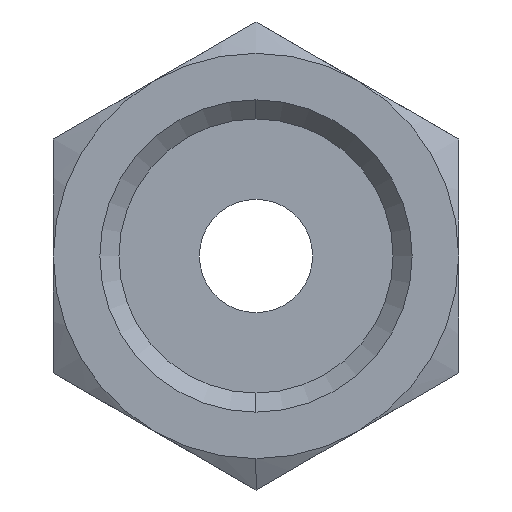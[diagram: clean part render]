
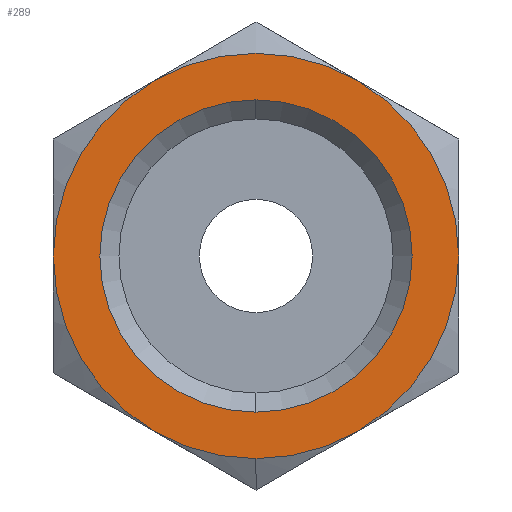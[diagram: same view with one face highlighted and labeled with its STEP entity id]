
A CAD part, front view. The second image highlights one B-rep face of the part: STEP entity #289.
In plain terms, the highlighted planar face has unit normal (0, -1, 0).
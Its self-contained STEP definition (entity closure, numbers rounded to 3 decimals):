
#54 = DIRECTION ( 'NONE',  ( 0., -1., 0. ) ) ;
#150 = VERTEX_POINT ( 'NONE', #1997 ) ;
#152 = ORIENTED_EDGE ( 'NONE', *, *, #1999, .T. ) ;
#156 = FACE_BOUND ( 'NONE', #594, .T. ) ;
#161 = CIRCLE ( 'NONE', #1428, 8.5 ) ;
#180 = CARTESIAN_POINT ( 'NONE',  ( 0., 0., 0. ) ) ;
#189 = CARTESIAN_POINT ( 'NONE',  ( 0., 0., 0. ) ) ;
#192 = DIRECTION ( 'NONE',  ( 0., 0., -1. ) ) ;
#222 = EDGE_CURVE ( 'NONE', #150, #2000, #1866, .T. ) ;
#227 = ORIENTED_EDGE ( 'NONE', *, *, #1320, .T. ) ;
#289 = ADVANCED_FACE ( 'NONE', ( #156, #1001 ), #1289, .T. ) ;
#307 = CIRCLE ( 'NONE', #710, 8.5 ) ;
#385 = CIRCLE ( 'NONE', #634, 8.5 ) ;
#403 = ORIENTED_EDGE ( 'NONE', *, *, #1513, .T. ) ;
#411 = VERTEX_POINT ( 'NONE', #1096 ) ;
#419 = EDGE_CURVE ( 'NONE', #411, #1335, #1264, .T. ) ;
#420 = VERTEX_POINT ( 'NONE', #1734 ) ;
#433 = EDGE_CURVE ( 'NONE', #725, #746, #307, .T. ) ;
#465 = AXIS2_PLACEMENT_3D ( 'NONE', #538, #54, #1942 ) ;
#482 = DIRECTION ( 'NONE',  ( 0., -1., 0. ) ) ;
#538 = CARTESIAN_POINT ( 'NONE',  ( 5.75, 0., 0. ) ) ;
#594 = EDGE_LOOP ( 'NONE', ( #763, #1475 ) ) ;
#634 = AXIS2_PLACEMENT_3D ( 'NONE', #1531, #785, #1825 ) ;
#646 = DIRECTION ( 'NONE',  ( 0., 0., -1. ) ) ;
#669 = CARTESIAN_POINT ( 'NONE',  ( 0., 0., 0. ) ) ;
#677 = DIRECTION ( 'NONE',  ( 0., -1., 0. ) ) ;
#710 = AXIS2_PLACEMENT_3D ( 'NONE', #1748, #677, #646 ) ;
#725 = VERTEX_POINT ( 'NONE', #1101 ) ;
#727 = EDGE_CURVE ( 'NONE', #746, #420, #1235, .T. ) ;
#737 = CARTESIAN_POINT ( 'NONE',  ( 4.25, 0., -7.361 ) ) ;
#746 = VERTEX_POINT ( 'NONE', #1745 ) ;
#747 = CARTESIAN_POINT ( 'NONE',  ( 0., 0., 0. ) ) ;
#763 = ORIENTED_EDGE ( 'NONE', *, *, #419, .T. ) ;
#785 = DIRECTION ( 'NONE',  ( 0., -1., 0. ) ) ;
#817 = AXIS2_PLACEMENT_3D ( 'NONE', #858, #1952, #1788 ) ;
#823 = AXIS2_PLACEMENT_3D ( 'NONE', #669, #482, #192 ) ;
#824 = DIRECTION ( 'NONE',  ( 0., 0., -1. ) ) ;
#858 = CARTESIAN_POINT ( 'NONE',  ( 0., 0., 0. ) ) ;
#881 = VERTEX_POINT ( 'NONE', #1054 ) ;
#921 = CARTESIAN_POINT ( 'NONE',  ( 4.25, 0., 7.361 ) ) ;
#934 = AXIS2_PLACEMENT_3D ( 'NONE', #189, #1713, #1065 ) ;
#948 = DIRECTION ( 'NONE',  ( 0., -1., 0. ) ) ;
#983 = ORIENTED_EDGE ( 'NONE', *, *, #222, .T. ) ;
#997 = EDGE_CURVE ( 'NONE', #1335, #411, #1408, .T. ) ;
#1001 = FACE_OUTER_BOUND ( 'NONE', #1794, .T. ) ;
#1023 = ORIENTED_EDGE ( 'NONE', *, *, #433, .T. ) ;
#1054 = CARTESIAN_POINT ( 'NONE',  ( 0., 0., -8.5 ) ) ;
#1063 = ORIENTED_EDGE ( 'NONE', *, *, #727, .T. ) ;
#1065 = DIRECTION ( 'NONE',  ( 0., 0., -1. ) ) ;
#1085 = CARTESIAN_POINT ( 'NONE',  ( 0., 0., 0. ) ) ;
#1096 = CARTESIAN_POINT ( 'NONE',  ( 0., 0., -6.55 ) ) ;
#1101 = CARTESIAN_POINT ( 'NONE',  ( -4.25, 0., 7.361 ) ) ;
#1223 = CIRCLE ( 'NONE', #1528, 8.5 ) ;
#1235 = CIRCLE ( 'NONE', #1806, 8.5 ) ;
#1264 = CIRCLE ( 'NONE', #934, 6.55 ) ;
#1289 = PLANE ( 'NONE',  #465 ) ;
#1320 = EDGE_CURVE ( 'NONE', #1674, #150, #1679, .T. ) ;
#1335 = VERTEX_POINT ( 'NONE', #1895 ) ;
#1361 = DIRECTION ( 'NONE',  ( 0., -1., 0. ) ) ;
#1387 = DIRECTION ( 'NONE',  ( 0., -1., 0. ) ) ;
#1408 = CIRCLE ( 'NONE', #817, 6.55 ) ;
#1428 = AXIS2_PLACEMENT_3D ( 'NONE', #1543, #1387, #1520 ) ;
#1475 = ORIENTED_EDGE ( 'NONE', *, *, #997, .T. ) ;
#1513 = EDGE_CURVE ( 'NONE', #2000, #725, #161, .T. ) ;
#1520 = DIRECTION ( 'NONE',  ( 0., 0., -1. ) ) ;
#1528 = AXIS2_PLACEMENT_3D ( 'NONE', #747, #1361, #1971 ) ;
#1531 = CARTESIAN_POINT ( 'NONE',  ( 0., 0., 0. ) ) ;
#1543 = CARTESIAN_POINT ( 'NONE',  ( 0., 0., 0. ) ) ;
#1568 = DIRECTION ( 'NONE',  ( 0., -1., 0. ) ) ;
#1575 = EDGE_CURVE ( 'NONE', #420, #881, #385, .T. ) ;
#1662 = AXIS2_PLACEMENT_3D ( 'NONE', #180, #948, #824 ) ;
#1674 = VERTEX_POINT ( 'NONE', #737 ) ;
#1679 = CIRCLE ( 'NONE', #823, 8.5 ) ;
#1713 = DIRECTION ( 'NONE',  ( 0., 1., 0. ) ) ;
#1734 = CARTESIAN_POINT ( 'NONE',  ( -4.25, 0., -7.361 ) ) ;
#1745 = CARTESIAN_POINT ( 'NONE',  ( -8.5, 0., 0. ) ) ;
#1748 = CARTESIAN_POINT ( 'NONE',  ( 0., 0., 0. ) ) ;
#1788 = DIRECTION ( 'NONE',  ( 0., 0., -1. ) ) ;
#1794 = EDGE_LOOP ( 'NONE', ( #1897, #152, #227, #983, #403, #1023, #1063 ) ) ;
#1806 = AXIS2_PLACEMENT_3D ( 'NONE', #1085, #1568, #1855 ) ;
#1825 = DIRECTION ( 'NONE',  ( 0., 0., -1. ) ) ;
#1855 = DIRECTION ( 'NONE',  ( 0., 0., -1. ) ) ;
#1866 = CIRCLE ( 'NONE', #1662, 8.5 ) ;
#1895 = CARTESIAN_POINT ( 'NONE',  ( 0., 0., 6.55 ) ) ;
#1897 = ORIENTED_EDGE ( 'NONE', *, *, #1575, .T. ) ;
#1942 = DIRECTION ( 'NONE',  ( 0., 0., -1. ) ) ;
#1952 = DIRECTION ( 'NONE',  ( 0., 1., 0. ) ) ;
#1971 = DIRECTION ( 'NONE',  ( 0., 0., -1. ) ) ;
#1997 = CARTESIAN_POINT ( 'NONE',  ( 8.5, 0., 0. ) ) ;
#1999 = EDGE_CURVE ( 'NONE', #881, #1674, #1223, .T. ) ;
#2000 = VERTEX_POINT ( 'NONE', #921 ) ;
